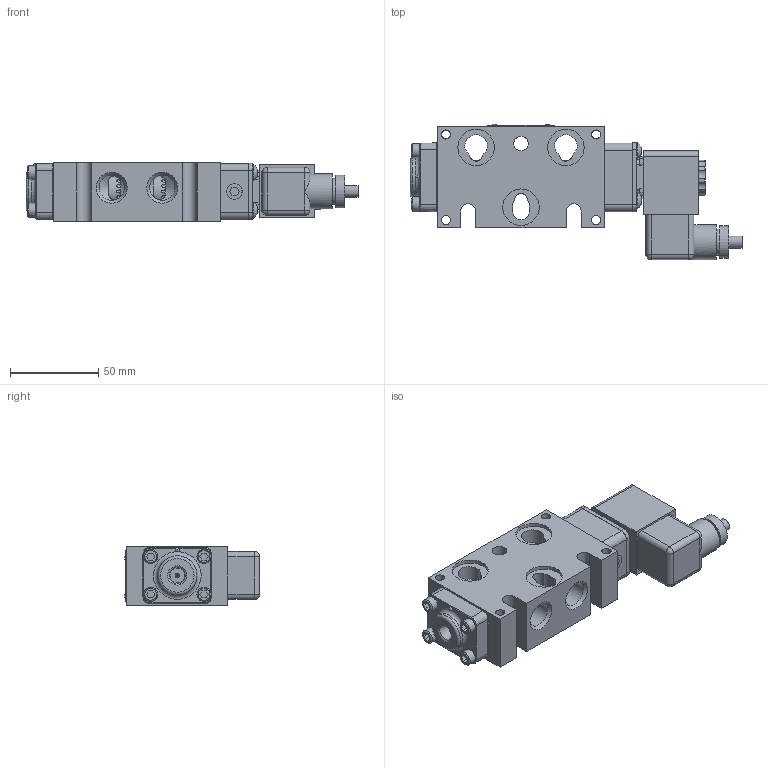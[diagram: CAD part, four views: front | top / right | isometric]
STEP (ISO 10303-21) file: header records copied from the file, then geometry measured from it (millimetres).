
FILE_DESCRIPTION(/* description */ (''),/* implementation_level */ '2;1');
FILE_NAME(/* name */ 'D:\Website Files\stp\Valves\Standard\ESR\EBSR3T.stp',/* time_stamp */ '2015-04-25T20:29:30-04:00',/* author */ ('RMcKenna'),/* organization */ (''),/* preprocessor_version */ 'ST-DEVELOPER v15.6',/* originating_system */ 'Autodesk Inventor 2015',/* authorisation */ '');
FILE_SCHEMA (('AUTOMOTIVE_DESIGN { 1 0 10303 214 3 1 1 }'));
Length unit declared in the file: centimetre
Products named in the file (1): Part50
Bounding box: 187.82 x 76.44 x 33.32 mm (x, y, z)
Volume: 219899.1 mm3; surface area: 77309.1 mm2
Topology: 2 solids, 31 shells, 1424 faces, 3426 edges, 2173 vertices
Faces by surface type: plane 586, cylinder 408, cone 254, torus 120, bspline 45, sphere 11
Full cylindrical faces by diameter (mm): 1.016 x1, 1.3 x1, 1.397 x1, 1.5 x2, 2.007 x2, 2.032 x8, 2.07 x2, 2.261 x2, 2.35 x4, 2.362 x2, 2.381 x2, 2.778 x2, 2.8 x1, 2.819 x1, 3 x4, 3.048 x2, 3.175 x1, 3.4 x1, 3.683 x9, 4.191 x2, 4.305 x1, 4.826 x6, 4.953 x1, 5.15 x2, 5.156 x10, 5.5 x1, 6.553 x1, 6.731 x1, 6.9 x1, 7.188 x1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
Entity records: 43910 total; most frequent: CARTESIAN_POINT 10802, DIRECTION 6742, ORIENTED_EDGE 6156, EDGE_CURVE 3076, AXIS2_PLACEMENT_3D 2702, VERTEX_POINT 2073, EDGE_LOOP 1849, FACE_OUTER_BOUND 1423
